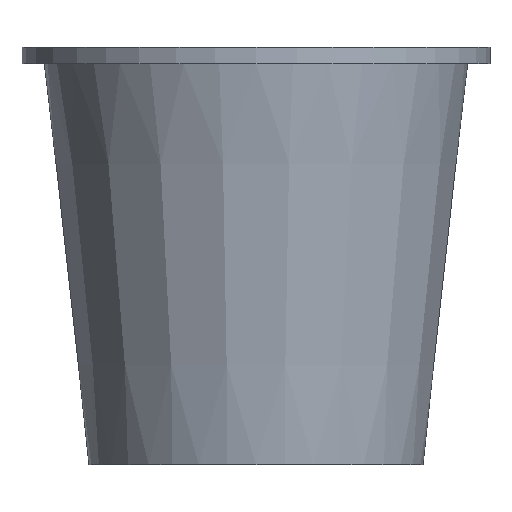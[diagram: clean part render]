
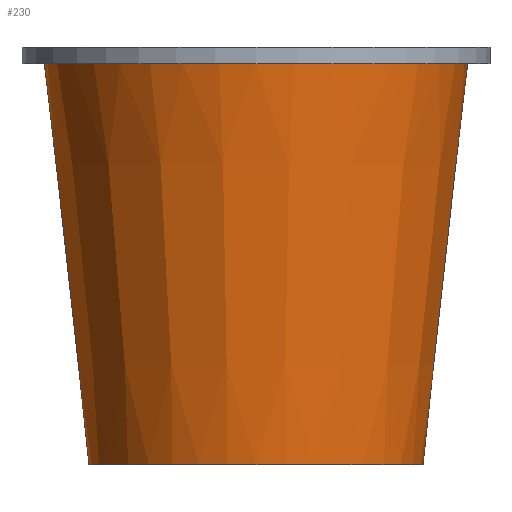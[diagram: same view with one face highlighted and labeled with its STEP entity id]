
A CAD part, left-side view. The second image highlights one B-rep face of the part: STEP entity #230.
In plain terms, the highlighted conical face has half-angle 6.34 degrees and reference radius 30 mm.
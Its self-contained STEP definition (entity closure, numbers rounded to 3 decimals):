
#93 = PLANE('',#94);
#94 = AXIS2_PLACEMENT_3D('',#95,#96,#97);
#95 = CARTESIAN_POINT('',(0.,0.,176.));
#96 = DIRECTION('',(0.,0.,1.));
#97 = DIRECTION('',(1.,0.,0.));
#147 = EDGE_CURVE('',#148,#148,#150,.T.);
#148 = VERTEX_POINT('',#149);
#149 = CARTESIAN_POINT('',(38.,0.,176.));
#150 = SURFACE_CURVE('',#151,(#156,#163),.PCURVE_S1.);
#151 = CIRCLE('',#152,38.);
#152 = AXIS2_PLACEMENT_3D('',#153,#154,#155);
#153 = CARTESIAN_POINT('',(0.,0.,176.));
#154 = DIRECTION('',(0.,0.,1.));
#155 = DIRECTION('',(1.,0.,0.));
#156 = PCURVE('',#93,#157);
#157 = DEFINITIONAL_REPRESENTATION('',(#158),#162);
#158 = CIRCLE('',#159,38.);
#159 = AXIS2_PLACEMENT_2D('',#160,#161);
#160 = CARTESIAN_POINT('',(0.,0.));
#161 = DIRECTION('',(1.,0.));
#162 = ( GEOMETRIC_REPRESENTATION_CONTEXT(2) 
PARAMETRIC_REPRESENTATION_CONTEXT() REPRESENTATION_CONTEXT('2D SPACE',''
  ) );
#163 = PCURVE('',#164,#169);
#164 = CONICAL_SURFACE('',#165,30.,0.111);
#165 = AXIS2_PLACEMENT_3D('',#166,#167,#168);
#166 = CARTESIAN_POINT('',(0.,0.,104.));
#167 = DIRECTION('',(0.,0.,1.));
#168 = DIRECTION('',(1.,0.,0.));
#169 = DEFINITIONAL_REPRESENTATION('',(#170),#174);
#170 = LINE('',#171,#172);
#171 = CARTESIAN_POINT('',(0.,72.));
#172 = VECTOR('',#173,1.);
#173 = DIRECTION('',(1.,0.));
#174 = ( GEOMETRIC_REPRESENTATION_CONTEXT(2) 
PARAMETRIC_REPRESENTATION_CONTEXT() REPRESENTATION_CONTEXT('2D SPACE',''
  ) );
#230 = ADVANCED_FACE('',(#231),#164,.T.);
#231 = FACE_BOUND('',#232,.T.);
#232 = EDGE_LOOP('',(#233,#234,#257,#284));
#233 = ORIENTED_EDGE('',*,*,#147,.F.);
#234 = ORIENTED_EDGE('',*,*,#235,.F.);
#235 = EDGE_CURVE('',#236,#148,#238,.T.);
#236 = VERTEX_POINT('',#237);
#237 = CARTESIAN_POINT('',(30.,0.,104.));
#238 = SEAM_CURVE('',#239,(#243,#250),.PCURVE_S1.);
#239 = LINE('',#240,#241);
#240 = CARTESIAN_POINT('',(30.,0.,104.));
#241 = VECTOR('',#242,1.);
#242 = DIRECTION('',(0.11,0.,0.994));
#243 = PCURVE('',#164,#244);
#244 = DEFINITIONAL_REPRESENTATION('',(#245),#249);
#245 = LINE('',#246,#247);
#246 = CARTESIAN_POINT('',(6.283,-0.));
#247 = VECTOR('',#248,1.);
#248 = DIRECTION('',(0.,1.));
#249 = ( GEOMETRIC_REPRESENTATION_CONTEXT(2) 
PARAMETRIC_REPRESENTATION_CONTEXT() REPRESENTATION_CONTEXT('2D SPACE',''
  ) );
#250 = PCURVE('',#164,#251);
#251 = DEFINITIONAL_REPRESENTATION('',(#252),#256);
#252 = LINE('',#253,#254);
#253 = CARTESIAN_POINT('',(0.,-0.));
#254 = VECTOR('',#255,1.);
#255 = DIRECTION('',(0.,1.));
#256 = ( GEOMETRIC_REPRESENTATION_CONTEXT(2) 
PARAMETRIC_REPRESENTATION_CONTEXT() REPRESENTATION_CONTEXT('2D SPACE',''
  ) );
#257 = ORIENTED_EDGE('',*,*,#258,.T.);
#258 = EDGE_CURVE('',#236,#236,#259,.T.);
#259 = SURFACE_CURVE('',#260,(#265,#272),.PCURVE_S1.);
#260 = CIRCLE('',#261,30.);
#261 = AXIS2_PLACEMENT_3D('',#262,#263,#264);
#262 = CARTESIAN_POINT('',(0.,0.,104.));
#263 = DIRECTION('',(0.,0.,1.));
#264 = DIRECTION('',(1.,0.,0.));
#265 = PCURVE('',#164,#266);
#266 = DEFINITIONAL_REPRESENTATION('',(#267),#271);
#267 = LINE('',#268,#269);
#268 = CARTESIAN_POINT('',(0.,0.));
#269 = VECTOR('',#270,1.);
#270 = DIRECTION('',(1.,0.));
#271 = ( GEOMETRIC_REPRESENTATION_CONTEXT(2) 
PARAMETRIC_REPRESENTATION_CONTEXT() REPRESENTATION_CONTEXT('2D SPACE',''
  ) );
#272 = PCURVE('',#273,#278);
#273 = PLANE('',#274);
#274 = AXIS2_PLACEMENT_3D('',#275,#276,#277);
#275 = CARTESIAN_POINT('',(0.,0.,104.));
#276 = DIRECTION('',(0.,0.,1.));
#277 = DIRECTION('',(1.,0.,0.));
#278 = DEFINITIONAL_REPRESENTATION('',(#279),#283);
#279 = CIRCLE('',#280,30.);
#280 = AXIS2_PLACEMENT_2D('',#281,#282);
#281 = CARTESIAN_POINT('',(0.,0.));
#282 = DIRECTION('',(1.,0.));
#283 = ( GEOMETRIC_REPRESENTATION_CONTEXT(2) 
PARAMETRIC_REPRESENTATION_CONTEXT() REPRESENTATION_CONTEXT('2D SPACE',''
  ) );
#284 = ORIENTED_EDGE('',*,*,#235,.T.);
